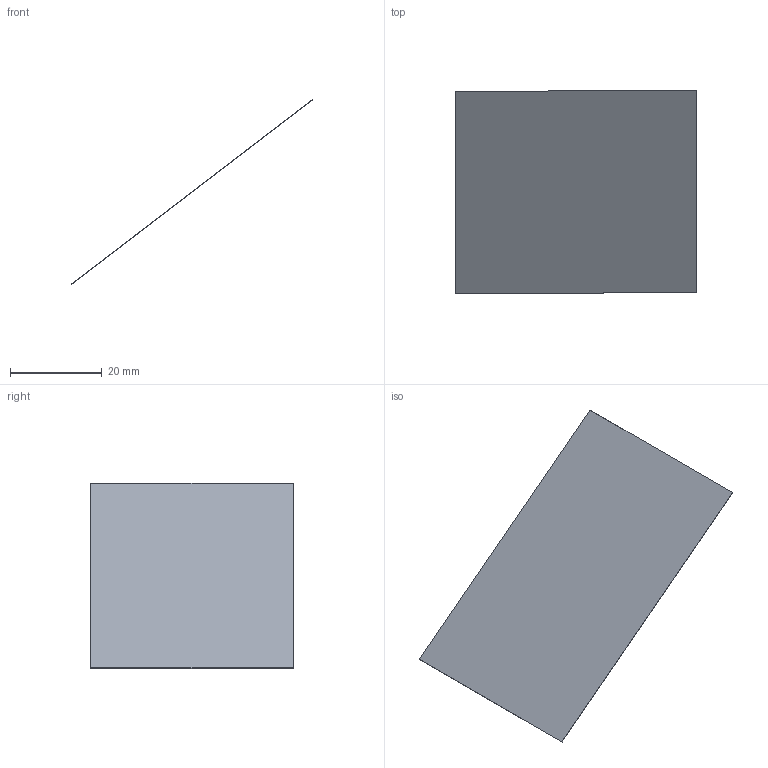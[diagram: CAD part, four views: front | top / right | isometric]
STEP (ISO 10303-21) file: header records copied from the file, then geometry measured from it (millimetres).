
FILE_DESCRIPTION(('Open CASCADE Model'),'2;1');
FILE_NAME('Open CASCADE Shape Model','2026-10-04T01:02:33',('Author'),( 'Open CASCADE'),'Open CASCADE STEP processor 8.0','Open CASCADE 8.0' ,'Unknown');
FILE_SCHEMA(('AUTOMOTIVE_DESIGN { 1 0 10303 214 1 1 1 1 }'));
Length unit declared in the file: millimetre
Products named in the file (1): Open CASCADE STEP translator 8.0 286
Bounding box: 52.66 x 44 x 40.3 mm (x, y, z)
Volume: 436.7 mm3; surface area: 5855.7 mm2
Topology: 1 solids, 1 shells, 6 faces, 12 edges, 8 vertices
Faces by surface type: plane 6
Entity records: 322 total; most frequent: CARTESIAN_POINT 51, DIRECTION 50, LINE 36, VECTOR 36, ORIENTED_EDGE 24, PCURVE 24, DEFINITIONAL_REPRESENTATION 24, EDGE_CURVE 12
